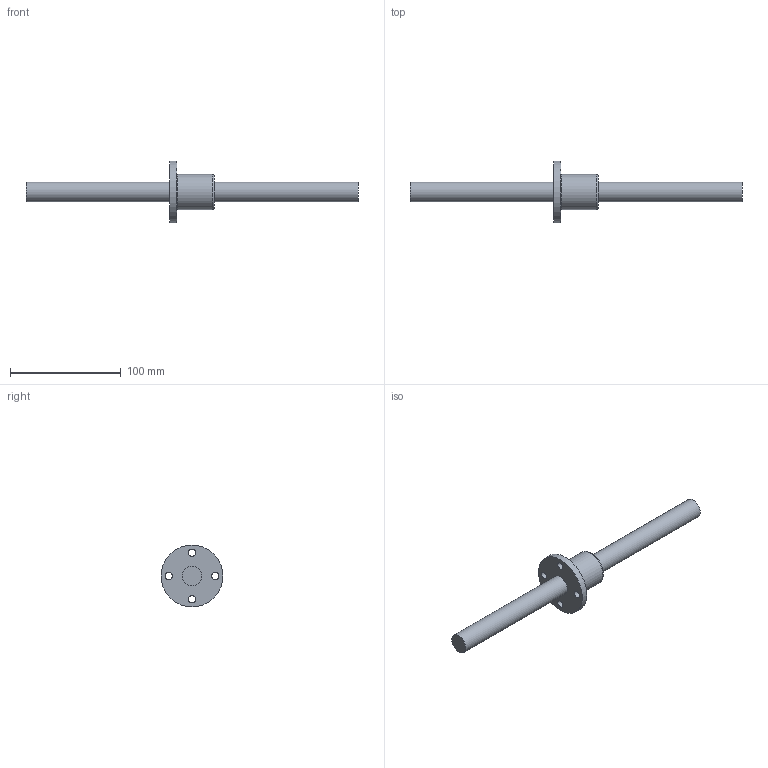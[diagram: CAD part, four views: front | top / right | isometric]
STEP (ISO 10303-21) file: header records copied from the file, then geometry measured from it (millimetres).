
FILE_DESCRIPTION((''),'2;1');
FILE_NAME('D:\製品 (図面)\カタログ用3D\ネジ関連\STEP形式\TMF\TMF18.stp','2010-06-02T14:58:51',('Tsuchiya'),(''),'Autodesk Inventor 10','Autodesk Inventor 10','');
FILE_SCHEMA(('AUTOMOTIVE_DESIGN { 1 0 10303 214 1 1 1 1 }'));
Length unit declared in the file: millimetre
Products named in the file (3): TMF18; TMF181; TMF182
Assembly tree (2 placements, depth 2):
  TMF18
    TMF181
    TMF182
Bounding box: 300 x 56 x 56 mm (x, y, z)
Volume: 107421.1 mm3; surface area: 28762.9 mm2
Topology: 2 solids, 2 shells, 15 faces, 32 edges, 22 vertices
Faces by surface type: cylinder 8, plane 5, torus 1, bspline 1
Full cylindrical faces by diameter (mm): 6.6 x4, 18 x2, 32 x1, 56 x1
Entity records: 470 total; most frequent: CARTESIAN_POINT 100, DIRECTION 74, AXIS2_PLACEMENT_3D 37, ORIENTED_EDGE 36, EDGE_LOOP 36, FACE_BOUND 21, VERTEX_POINT 18, CIRCLE 18
